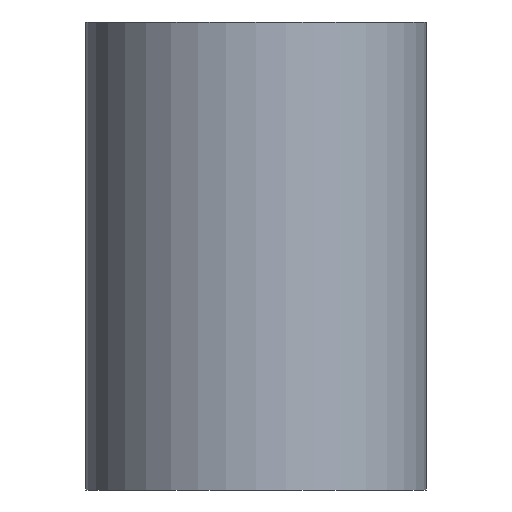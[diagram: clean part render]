
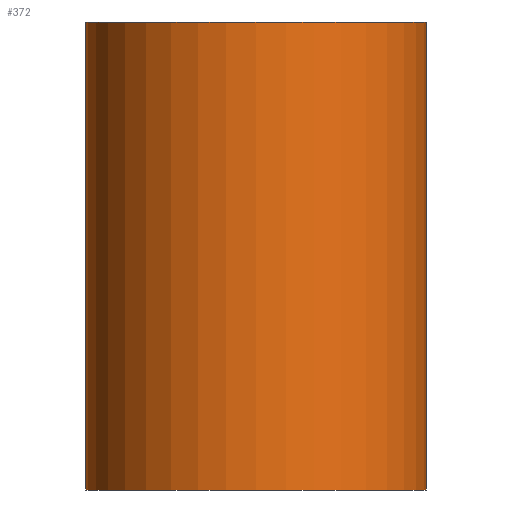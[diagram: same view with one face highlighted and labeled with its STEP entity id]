
A CAD part, front view. The second image highlights one B-rep face of the part: STEP entity #372.
In plain terms, the highlighted cylindrical face has radius 19.05 mm (diameter 38.1 mm), a partial arc.
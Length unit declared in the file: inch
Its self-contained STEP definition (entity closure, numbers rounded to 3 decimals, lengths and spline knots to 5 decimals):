
#14 = CARTESIAN_POINT ( 'NONE',  ( -0.75, 0., 1.09375 ) ) ;
#29 = AXIS2_PLACEMENT_3D ( 'NONE', #36, #583, #506 ) ;
#36 = CARTESIAN_POINT ( 'NONE',  ( 0., 0., -1.09375 ) ) ;
#58 = VERTEX_POINT ( 'NONE', #591 ) ;
#130 = VECTOR ( 'NONE', #633, 39.37008 ) ;
#148 = DIRECTION ( 'NONE',  ( 0., 1., 0. ) ) ;
#152 = DIRECTION ( 'NONE',  ( 0., 0., -1. ) ) ;
#164 = CARTESIAN_POINT ( 'NONE',  ( -0.75, 0., -1.09375 ) ) ;
#168 = CARTESIAN_POINT ( 'NONE',  ( 0.75, 0., -1.09375 ) ) ;
#197 = AXIS2_PLACEMENT_3D ( 'NONE', #613, #152, #148 ) ;
#226 = LINE ( 'NONE', #279, #822 ) ;
#246 = EDGE_LOOP ( 'NONE', ( #812, #918, #833, #449 ) ) ;
#256 = VERTEX_POINT ( 'NONE', #851 ) ;
#279 = CARTESIAN_POINT ( 'NONE',  ( 0.75, 0., 1.09375 ) ) ;
#296 = VERTEX_POINT ( 'NONE', #164 ) ;
#311 = CIRCLE ( 'NONE', #29, 0.75 ) ;
#313 = DIRECTION ( 'NONE',  ( -1., 0., 0. ) ) ;
#372 = ADVANCED_FACE ( 'NONE', ( #673 ), #472, .T. ) ;
#408 = EDGE_CURVE ( 'NONE', #296, #735, #311, .T. ) ;
#449 = ORIENTED_EDGE ( 'NONE', *, *, #408, .T. ) ;
#472 = CYLINDRICAL_SURFACE ( 'NONE', #728, 0.75 ) ;
#506 = DIRECTION ( 'NONE',  ( 1., 0., 0. ) ) ;
#531 = CIRCLE ( 'NONE', #197, 0.75 ) ;
#557 = DIRECTION ( 'NONE',  ( 0., 0., -1. ) ) ;
#583 = DIRECTION ( 'NONE',  ( 0., 0., 1. ) ) ;
#591 = CARTESIAN_POINT ( 'NONE',  ( 0.75, 0., 0.96625 ) ) ;
#609 = EDGE_CURVE ( 'NONE', #58, #735, #226, .T. ) ;
#613 = CARTESIAN_POINT ( 'NONE',  ( 0., 0., 0.96625 ) ) ;
#633 = DIRECTION ( 'NONE',  ( 0., 0., -1. ) ) ;
#673 = FACE_OUTER_BOUND ( 'NONE', #246, .T. ) ;
#714 = EDGE_CURVE ( 'NONE', #58, #256, #531, .T. ) ;
#728 = AXIS2_PLACEMENT_3D ( 'NONE', #857, #557, #313 ) ;
#735 = VERTEX_POINT ( 'NONE', #168 ) ;
#750 = DIRECTION ( 'NONE',  ( 0., 0., -1. ) ) ;
#812 = ORIENTED_EDGE ( 'NONE', *, *, #609, .F. ) ;
#822 = VECTOR ( 'NONE', #750, 39.37008 ) ;
#832 = EDGE_CURVE ( 'NONE', #256, #296, #945, .T. ) ;
#833 = ORIENTED_EDGE ( 'NONE', *, *, #832, .T. ) ;
#851 = CARTESIAN_POINT ( 'NONE',  ( -0.75, 0., 0.96625 ) ) ;
#857 = CARTESIAN_POINT ( 'NONE',  ( 0., 0., 1.09375 ) ) ;
#918 = ORIENTED_EDGE ( 'NONE', *, *, #714, .T. ) ;
#945 = LINE ( 'NONE', #14, #130 ) ;
